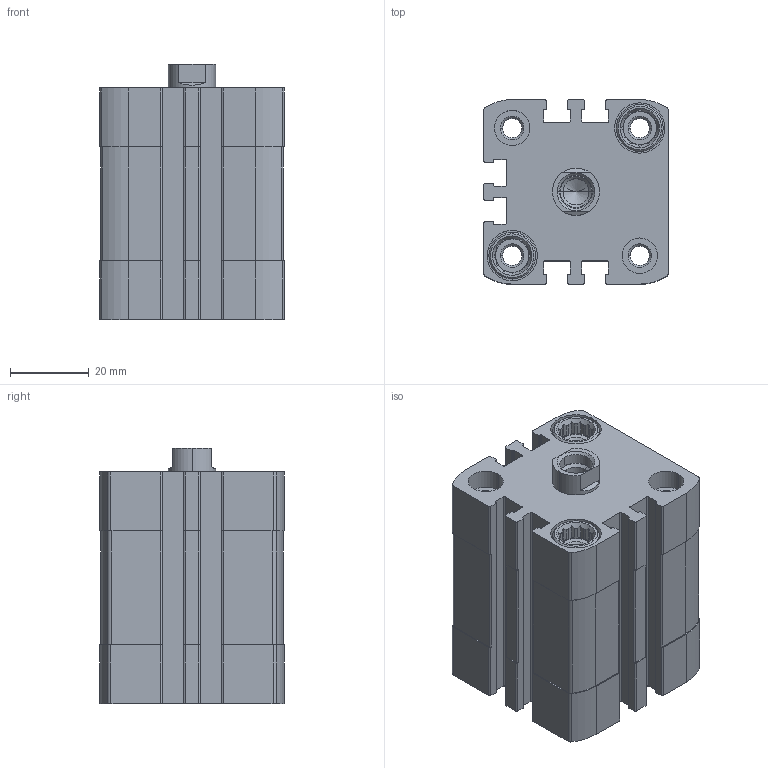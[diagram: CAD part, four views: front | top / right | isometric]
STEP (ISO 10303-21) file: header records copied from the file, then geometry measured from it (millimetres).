
FILE_DESCRIPTION (( 'STEP AP203' ), '1' );
FILE_NAME ('CCN32-15F.STEP', '2017-04-06T12:25:57', ( '' ), ( '' ), 'SwSTEP 2.0', 'SolidWorks 2016', '' );
FILE_SCHEMA (( 'CONFIG_CONTROL_DESIGN' ));
Length unit declared in the file: millimetre
Products named in the file (3): CCN-15----(Z); CCN-15-_(KS); CCN32-15F
Assembly tree (2 placements, depth 2):
  CCN32-15F
    CCN-15----(Z)
    CCN-15-_(KS)
Bounding box: 47 x 47 x 65 mm (x, y, z)
Volume: 95556.2 mm3; surface area: 35196.2 mm2
Topology: 2 solids, 2 shells, 479 faces, 1298 edges, 853 vertices
Faces by surface type: plane 267, cylinder 170, cone 42
Entity records: 15589 total; most frequent: CARTESIAN_POINT 2927, DIRECTION 2652, ORIENTED_EDGE 2592, EDGE_CURVE 1296, AXIS2_PLACEMENT_3D 970, VERTEX_POINT 853, VECTOR 712, LINE 712
